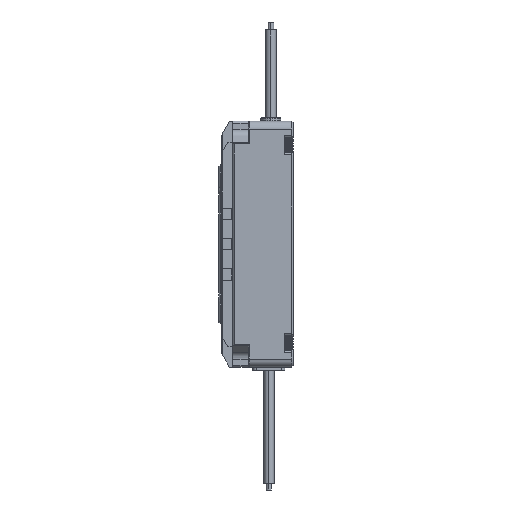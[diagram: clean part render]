
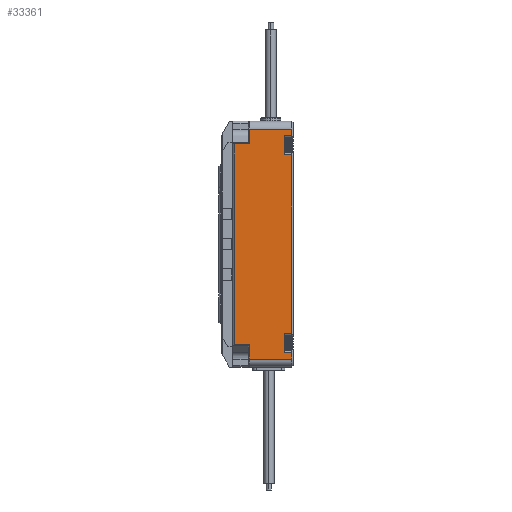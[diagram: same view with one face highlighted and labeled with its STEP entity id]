
A CAD part, left-side view. The second image highlights one B-rep face of the part: STEP entity #33361.
In plain terms, the highlighted planar face has unit normal (-1, 0, 0).
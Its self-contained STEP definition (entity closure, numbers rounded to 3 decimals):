
#7338=DIRECTION('',(0.,-1.,0.));
#7339=VECTOR('',#7338,13.2);
#7340=CARTESIAN_POINT('',(-27.5,6.7,
-36.));
#7341=LINE('',#7340,#7339);
#7384=DIRECTION('',(0.,0.,-1.));
#7385=VECTOR('',#7384,4.619);
#7386=CARTESIAN_POINT('',(-27.5,6.7,
-31.381));
#7387=LINE('',#7386,#7385);
#7392=DIRECTION('',(0.,0.,1.));
#7393=VECTOR('',#7392,62.762);
#7394=CARTESIAN_POINT('',(-27.5,11.5,
-31.381));
#7395=LINE('',#7394,#7393);
#7396=DIRECTION('',(0.,1.,0.));
#7397=VECTOR('',#7396,2.3);
#7398=CARTESIAN_POINT('',(-27.5,-6.5,
34.));
#7399=LINE('',#7398,#7397);
#7400=DIRECTION('',(0.,0.,-1.));
#7401=VECTOR('',#7400,6.);
#7402=CARTESIAN_POINT('',(-27.5,-4.2,34.));
#7403=LINE('',#7402,#7401);
#7404=DIRECTION('',(0.,-1.,0.));
#7405=VECTOR('',#7404,2.3);
#7406=CARTESIAN_POINT('',(-27.5,-4.2,28.));
#7407=LINE('',#7406,#7405);
#7408=DIRECTION('',(0.,1.,0.));
#7409=VECTOR('',#7408,2.3);
#7410=CARTESIAN_POINT('',(-27.5,-6.5,
-28.));
#7411=LINE('',#7410,#7409);
#7412=DIRECTION('',(0.,0.,-1.));
#7413=VECTOR('',#7412,6.);
#7414=CARTESIAN_POINT('',(-27.5,-4.2,-28.));
#7415=LINE('',#7414,#7413);
#7416=DIRECTION('',(0.,-1.,0.));
#7417=VECTOR('',#7416,2.3);
#7418=CARTESIAN_POINT('',(-27.5,-4.2,-34.));
#7419=LINE('',#7418,#7417);
#7420=DIRECTION('',(0.,-1.,0.));
#7421=VECTOR('',#7420,4.8);
#7422=CARTESIAN_POINT('',(-27.5,11.5,
-31.381));
#7423=LINE('',#7422,#7421);
#7574=DIRECTION('',(0.,1.,0.));
#7575=VECTOR('',#7574,13.2);
#7576=CARTESIAN_POINT('',(-27.5,-6.5,
36.));
#7577=LINE('',#7576,#7575);
#7591=DIRECTION('',(0.,0.,1.));
#7592=VECTOR('',#7591,2.);
#7593=CARTESIAN_POINT('',(-27.5,-6.5,
34.));
#7594=LINE('',#7593,#7592);
#9317=DIRECTION('',(0.,0.,1.));
#9318=VECTOR('',#9317,56.);
#9319=CARTESIAN_POINT('',(-27.5,-6.5,
-28.));
#9320=LINE('',#9319,#9318);
#11043=DIRECTION('',(0.,0.,1.));
#11044=VECTOR('',#11043,2.);
#11045=CARTESIAN_POINT('',(-27.5,-6.5,
-36.));
#11046=LINE('',#11045,#11044);
#11084=DIRECTION('',(0.,0.,-1.));
#11085=VECTOR('',#11084,4.619);
#11086=CARTESIAN_POINT('',(-27.5,6.7,
36.));
#11087=LINE('',#11086,#11085);
#11103=DIRECTION('',(0.,1.,0.));
#11104=VECTOR('',#11103,4.8);
#11105=CARTESIAN_POINT('',(-27.5,6.7,
31.381));
#11106=LINE('',#11105,#11104);
#18298=CARTESIAN_POINT('',(-27.5,-6.5,-36.));
#18299=VERTEX_POINT('',#18298);
#18356=CARTESIAN_POINT('',(-27.5,-6.5,36.));
#18357=VERTEX_POINT('',#18356);
#18358=CARTESIAN_POINT('',(-27.5,-6.5,
34.));
#18359=VERTEX_POINT('',#18358);
#18364=CARTESIAN_POINT('',(-27.5,-4.2,34.));
#18365=VERTEX_POINT('',#18364);
#18374=CARTESIAN_POINT('',(-27.5,-6.5,28.));
#18375=VERTEX_POINT('',#18374);
#18376=CARTESIAN_POINT('',(-27.5,-4.2,28.));
#18377=VERTEX_POINT('',#18376);
#18380=CARTESIAN_POINT('',(-27.5,-6.5,
-28.));
#18381=VERTEX_POINT('',#18380);
#18382=CARTESIAN_POINT('',(-27.5,-4.2,-28.));
#18383=VERTEX_POINT('',#18382);
#18384=CARTESIAN_POINT('',(-27.5,-4.2,-34.));
#18385=VERTEX_POINT('',#18384);
#18386=CARTESIAN_POINT('',(-27.5,-6.5,
-34.));
#18387=VERTEX_POINT('',#18386);
#18408=CARTESIAN_POINT('',(-27.5,6.7,
-31.381));
#18409=CARTESIAN_POINT('',(-27.5,6.7,
-36.));
#18410=VERTEX_POINT('',#18408);
#18411=VERTEX_POINT('',#18409);
#18412=CARTESIAN_POINT('',(-27.5,11.5,
-31.381));
#18413=VERTEX_POINT('',#18412);
#18414=CARTESIAN_POINT('',(-27.5,11.5,
31.381));
#18415=VERTEX_POINT('',#18414);
#18416=CARTESIAN_POINT('',(-27.5,6.7,
31.381));
#18417=VERTEX_POINT('',#18416);
#18418=CARTESIAN_POINT('',(-27.5,6.7,
36.));
#18419=VERTEX_POINT('',#18418);
#33324=CARTESIAN_POINT('',(-27.5,0.,38.5));
#33325=DIRECTION('',(-1.,0.,0.));
#33326=DIRECTION('',(0.,0.,-1.));
#33327=AXIS2_PLACEMENT_3D('',#33324,#33325,#33326);
#33328=PLANE('',#33327);
#33329=ORIENTED_EDGE('',*,*,#33262,.F.);
#33330=ORIENTED_EDGE('',*,*,#33315,.F.);
#33332=ORIENTED_EDGE('',*,*,#33331,.F.);
#33334=ORIENTED_EDGE('',*,*,#33333,.T.);
#33336=ORIENTED_EDGE('',*,*,#33335,.F.);
#33338=ORIENTED_EDGE('',*,*,#33337,.F.);
#33340=ORIENTED_EDGE('',*,*,#33339,.F.);
#33342=ORIENTED_EDGE('',*,*,#33341,.F.);
#33344=ORIENTED_EDGE('',*,*,#33343,.T.);
#33346=ORIENTED_EDGE('',*,*,#33345,.T.);
#33348=ORIENTED_EDGE('',*,*,#33347,.T.);
#33350=ORIENTED_EDGE('',*,*,#33349,.F.);
#33352=ORIENTED_EDGE('',*,*,#33351,.T.);
#33354=ORIENTED_EDGE('',*,*,#33353,.T.);
#33356=ORIENTED_EDGE('',*,*,#33355,.T.);
#33358=ORIENTED_EDGE('',*,*,#33357,.F.);
#33359=EDGE_LOOP('',(#33329,#33330,#33332,#33334,#33336,#33338,#33340,#33342,
#33344,#33346,#33348,#33350,#33352,#33354,#33356,#33358));
#33360=FACE_OUTER_BOUND('',#33359,.F.);
#33361=ADVANCED_FACE('',(#33360),#33328,.T.);
#33262=EDGE_CURVE('',#18411,#18299,#7341,.T.);
#33315=EDGE_CURVE('',#18410,#18411,#7387,.T.);
#33331=EDGE_CURVE('',#18413,#18410,#7423,.T.);
#33333=EDGE_CURVE('',#18413,#18415,#7395,.T.);
#33335=EDGE_CURVE('',#18417,#18415,#11106,.T.);
#33337=EDGE_CURVE('',#18419,#18417,#11087,.T.);
#33339=EDGE_CURVE('',#18357,#18419,#7577,.T.);
#33341=EDGE_CURVE('',#18359,#18357,#7594,.T.);
#33343=EDGE_CURVE('',#18359,#18365,#7399,.T.);
#33345=EDGE_CURVE('',#18365,#18377,#7403,.T.);
#33347=EDGE_CURVE('',#18377,#18375,#7407,.T.);
#33349=EDGE_CURVE('',#18381,#18375,#9320,.T.);
#33351=EDGE_CURVE('',#18381,#18383,#7411,.T.);
#33353=EDGE_CURVE('',#18383,#18385,#7415,.T.);
#33355=EDGE_CURVE('',#18385,#18387,#7419,.T.);
#33357=EDGE_CURVE('',#18299,#18387,#11046,.T.);
